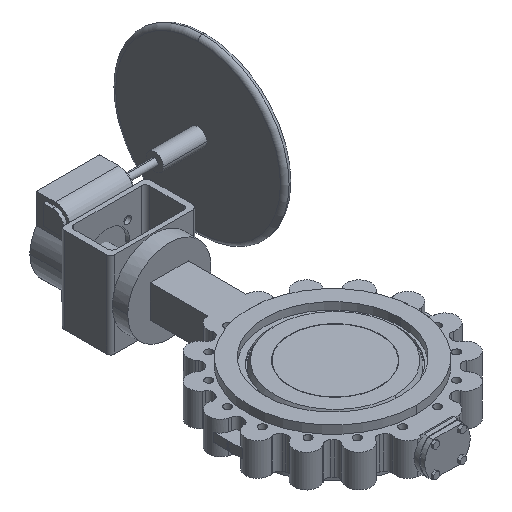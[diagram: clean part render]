
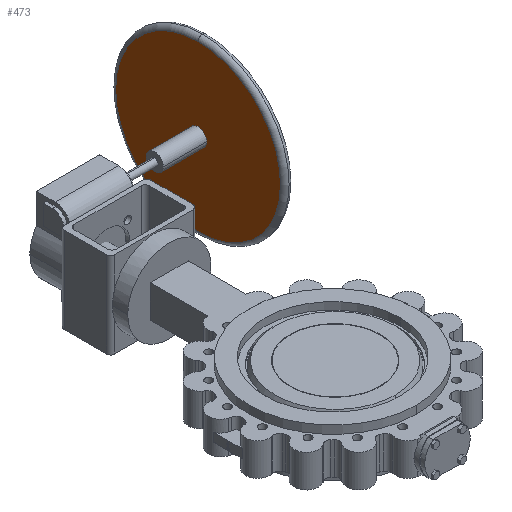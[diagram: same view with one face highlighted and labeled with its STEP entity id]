
A CAD part, isometric view. The second image highlights one B-rep face of the part: STEP entity #473.
In plain terms, the highlighted planar face has unit normal (-1, 0, 0).
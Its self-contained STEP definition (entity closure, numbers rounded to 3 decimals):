
#473 = ADVANCED_FACE( '', ( #1261, #1262 ), #1263, .T. );
#1261 = FACE_OUTER_BOUND( '', #2063, .T. );
#1262 = FACE_BOUND( '', #2064, .T. );
#1263 = PLANE( '', #2065 );
#2063 = EDGE_LOOP( '', ( #5053, #5054, #5055 ) );
#2064 = EDGE_LOOP( '', ( #5056, #5057 ) );
#2065 = AXIS2_PLACEMENT_3D( '', #5058, #5059, #5060 );
#5053 = ORIENTED_EDGE( '', *, *, #6016, .F. );
#5054 = ORIENTED_EDGE( '', *, *, #6015, .F. );
#5055 = ORIENTED_EDGE( '', *, *, #6012, .F. );
#5056 = ORIENTED_EDGE( '', *, *, #6038, .T. );
#5057 = ORIENTED_EDGE( '', *, *, #6130, .T. );
#5058 = CARTESIAN_POINT( '', ( 321., 840.45, 104.5 ) );
#5059 = DIRECTION( '', ( -1., 0., 0. ) );
#5060 = DIRECTION( '', ( 0., -1., 0. ) );
#6012 = EDGE_CURVE( '', #7572, #7574, #7575, .T. );
#6015 = EDGE_CURVE( '', #7574, #7578, #7579, .T. );
#6016 = EDGE_CURVE( '', #7578, #7572, #7580, .T. );
#6038 = EDGE_CURVE( '', #7617, #7621, #7623, .T. );
#6130 = EDGE_CURVE( '', #7621, #7617, #7775, .T. );
#7572 = VERTEX_POINT( '', #10546 );
#7574 = VERTEX_POINT( '', #10548 );
#7575 = CIRCLE( '', #10549, 237.5 );
#7578 = VERTEX_POINT( '', #10552 );
#7579 = CIRCLE( '', #10553, 237.5 );
#7580 = CIRCLE( '', #10554, 237.5 );
#7617 = VERTEX_POINT( '', #10622 );
#7621 = VERTEX_POINT( '', #10627 );
#7623 = CIRCLE( '', #10630, 25. );
#7775 = CIRCLE( '', #10855, 25. );
#10546 = CARTESIAN_POINT( '', ( 321., 709.2, 342. ) );
#10548 = CARTESIAN_POINT( '', ( 321., 709.2, -133. ) );
#10549 = AXIS2_PLACEMENT_3D( '', #12550, #12551, #12552 );
#10552 = CARTESIAN_POINT( '', ( 321., 946.7, 104.5 ) );
#10553 = AXIS2_PLACEMENT_3D( '', #12559, #12560, #12561 );
#10554 = AXIS2_PLACEMENT_3D( '', #12562, #12563, #12564 );
#10622 = CARTESIAN_POINT( '', ( 321., 734.2, 104.5 ) );
#10627 = CARTESIAN_POINT( '', ( 321., 684.2, 104.5 ) );
#10630 = AXIS2_PLACEMENT_3D( '', #12609, #12610, #12611 );
#10855 = AXIS2_PLACEMENT_3D( '', #12739, #12740, #12741 );
#12550 = CARTESIAN_POINT( '', ( 321., 709.2, 104.5 ) );
#12551 = DIRECTION( '', ( 1., 0., 0. ) );
#12552 = DIRECTION( '', ( 0., 1., 0. ) );
#12559 = CARTESIAN_POINT( '', ( 321., 709.2, 104.5 ) );
#12560 = DIRECTION( '', ( 1., 0., 0. ) );
#12561 = DIRECTION( '', ( 0., 1., 0. ) );
#12562 = CARTESIAN_POINT( '', ( 321., 709.2, 104.5 ) );
#12563 = DIRECTION( '', ( 1., 0., 0. ) );
#12564 = DIRECTION( '', ( 0., 1., 0. ) );
#12609 = CARTESIAN_POINT( '', ( 321., 709.2, 104.5 ) );
#12610 = DIRECTION( '', ( 1., 0., 0. ) );
#12611 = DIRECTION( '', ( 0., 1., 0. ) );
#12739 = CARTESIAN_POINT( '', ( 321., 709.2, 104.5 ) );
#12740 = DIRECTION( '', ( 1., 0., 0. ) );
#12741 = DIRECTION( '', ( 0., 1., 0. ) );
